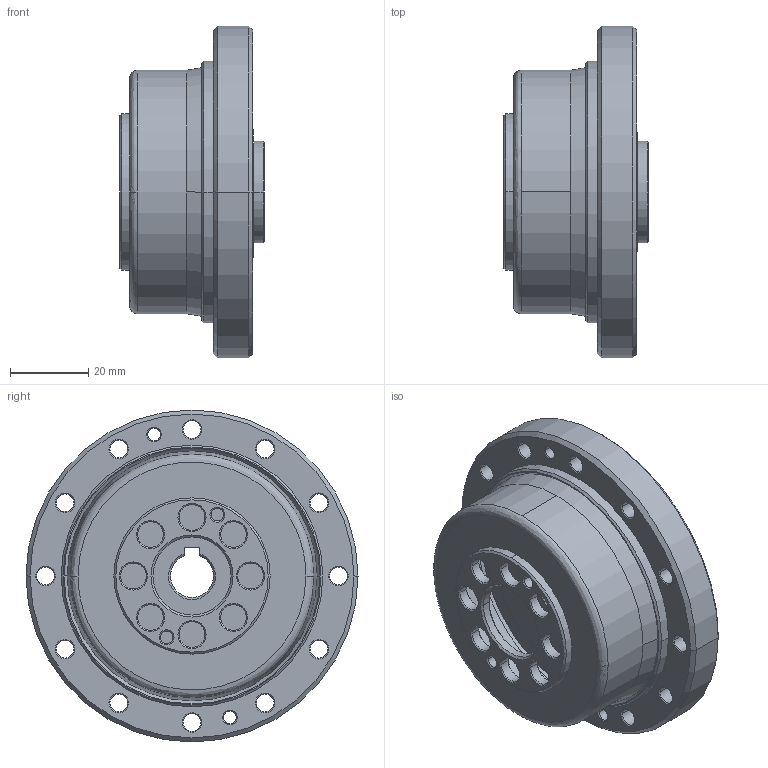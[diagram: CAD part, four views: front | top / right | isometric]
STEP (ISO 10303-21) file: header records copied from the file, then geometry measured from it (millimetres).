
FILE_DESCRIPTION(('STEP AP214'),'1');
FILE_NAME('cctmp_8F50EFA2-631D-479C-8E97-34E58E681D91_2025_03_06_11_15_37_0184_32872..stp','2025-03-06T10:15:37',('HIWIN GmbH'),('CADClick - www.CADClick.com'),'Spatial InterOp 3D',' ','unknown authorization');
FILE_SCHEMA(('AUTOMOTIVE_DESIGN'));
Length unit declared in the file: millimetre
Products named in the file (2): DSC-25-XX-CO_FILE; 2025_03_06_11_15_37_0184
Assembly tree (1 placements, depth 2):
  DSC-25-XX-CO_FILE
    2025_03_06_11_15_37_0184
Bounding box: 37 x 85 x 85 mm (x, y, z)
Volume: 71425 mm3; surface area: 30323.9 mm2
Topology: 1 solids, 1 shells, 249 faces, 575 edges, 342 vertices
Faces by surface type: cone 128, cylinder 87, plane 28, bspline 6
Entity records: 9723 total; most frequent: CARTESIAN_POINT 1742, DIRECTION 1373, ORIENTED_EDGE 1150, EDGE_CURVE 575, AXIS2_PLACEMENT_3D 567, VERTEX_POINT 342, CIRCLE 322, EDGE_LOOP 313
